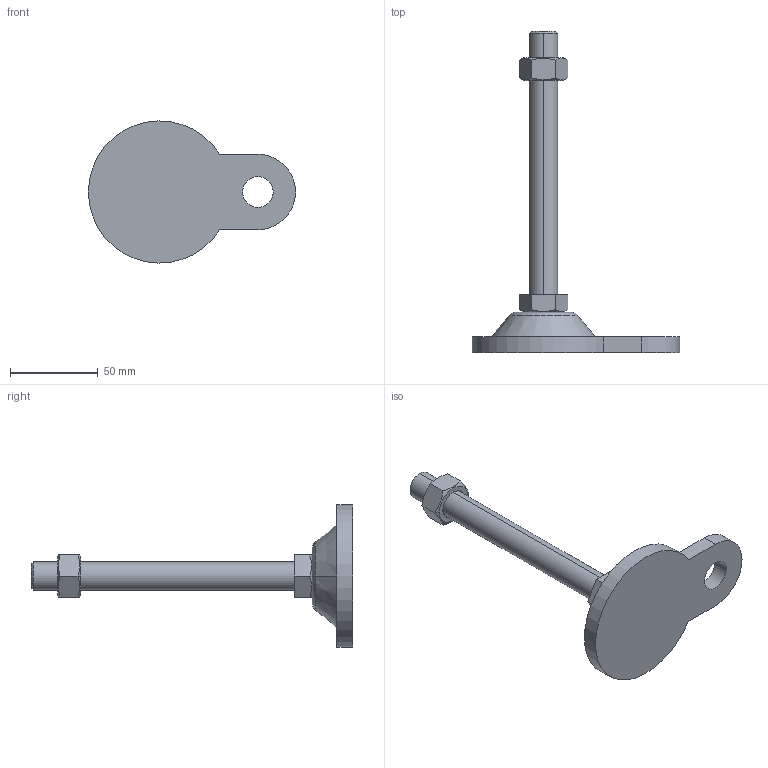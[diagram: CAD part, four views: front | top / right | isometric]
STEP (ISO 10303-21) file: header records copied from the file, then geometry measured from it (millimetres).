
FILE_DESCRIPTION (( 'STEP AP214' ), '1' );
FILE_NAME ('ARB81-M16-150.step', '2021-01-07T07:17:19', ( '' ), ( '' ), 'SwSTEP 2.0', 'SolidWorks 2019', '' );
FILE_SCHEMA (( 'AUTOMOTIVE_DESIGN' ));
Length unit declared in the file: millimetre
Products named in the file (1): ARB81-M16-150
Bounding box: 118 x 183 x 80.98 mm (x, y, z)
Volume: 121514.2 mm3; surface area: 28611.6 mm2
Topology: 3 solids, 3 shells, 46 faces, 100 edges, 62 vertices
Faces by surface type: plane 22, cone 14, cylinder 8, torus 2
Entity records: 1470 total; most frequent: CARTESIAN_POINT 407, DIRECTION 212, ORIENTED_EDGE 200, EDGE_CURVE 100, AXIS2_PLACEMENT_3D 83, VERTEX_POINT 62, EDGE_LOOP 52, LINE 46
